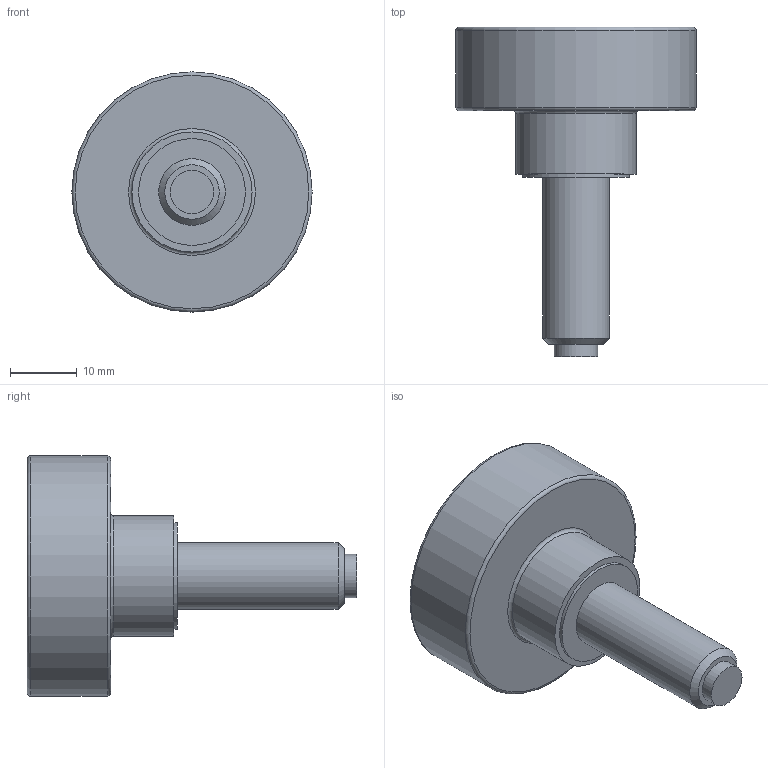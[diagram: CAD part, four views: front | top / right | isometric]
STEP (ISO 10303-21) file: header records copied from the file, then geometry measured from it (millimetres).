
FILE_DESCRIPTION( ( 'STEP AP203' ), '1' );
FILE_NAME( 'C:/Temp/Ganter_Step_05_03_2020/data/2_2/gn_421_10/Hollow knurled knob, with tip GN 421.10-M10-25-KU.stp', '2020-03-05T12:25:37', ( 'License CC BY-ND 4.0' ), ( 'CADENAS' ), ' ', 'PARTsolutions', ' ' );
FILE_SCHEMA( ( 'CONFIG_CONTROL_DESIGN' ) );
Length unit declared in the file: millimetre
Products named in the file (1): _Hollow knurled knob, with tip GN 421.10-M10-25-KU
Bounding box: 36 x 49.4 x 36 mm (x, y, z)
Volume: 11277.7 mm3; surface area: 5660.4 mm2
Topology: 1 solids, 1 shells, 19 faces, 30 edges, 19 vertices
Faces by surface type: plane 8, cylinder 7, torus 3, cone 1
Full cylindrical faces by diameter (mm): 6.5 x1, 10 x1, 14 x1, 16 x1, 18 x1, 31 x1, 36 x1
Entity records: 418 total; most frequent: DIRECTION 76, CARTESIAN_POINT 56, AXIS2_PLACEMENT_3D 38, EDGE_LOOP 36, ORIENTED_EDGE 36, FACE_OUTER_BOUND 29, ADVANCED_FACE 19, EDGE_CURVE 18
